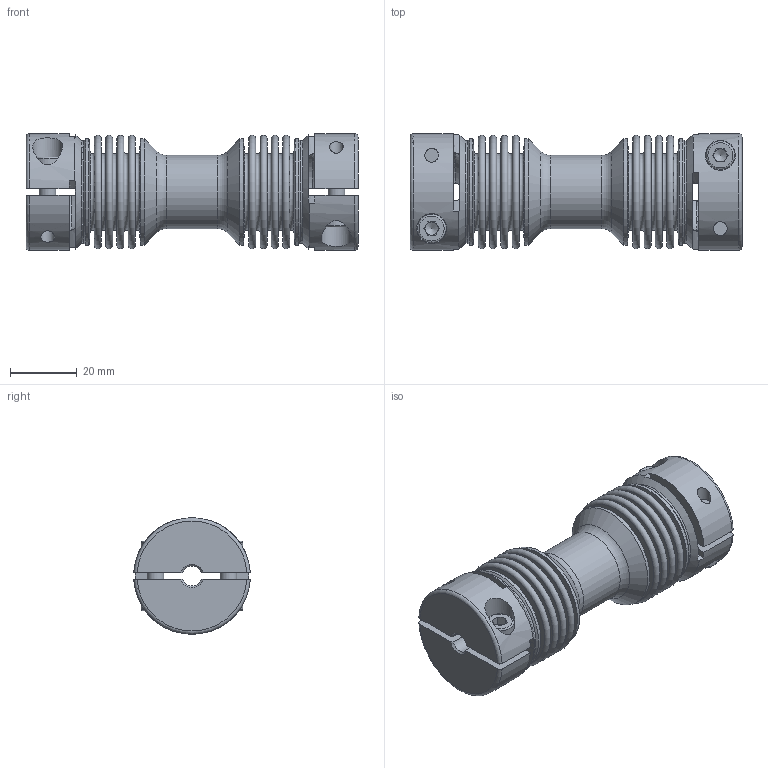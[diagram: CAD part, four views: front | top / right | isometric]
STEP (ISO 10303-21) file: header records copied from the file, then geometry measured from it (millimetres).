
FILE_DESCRIPTION(/* description */ ('Unknown','CAx-IF Rec.Pracs.---Representation and Presentation of Product Manufacturing Information (PMI)---4.0---2014-10-13','CAx-IF Rec.Pracs.---3D Tessellated Geometry---0.4---2014-09-14','2;1'),/* implementation_level */ '2;1');
FILE_NAME(/* name */ 'WDB 16',/* time_stamp */ '2023-01-16T11:43:05+01:00',/* author */ ('Unknown'),/* organization */ ('Unknown'),/* preprocessor_version */ 'ST-DEVELOPER v18.102',/* originating_system */ 'Solid Edge',/* authorisation */ 'Unknown');
FILE_SCHEMA (('AP242_MANAGED_MODEL_BASED_3D_ENGINEERING_MIM_LF { 1 0 10303 442 1 1 4 }'));
Length unit declared in the file: millimetre
Products named in the file (1): 16824342-step
Bounding box: 99.64 x 34.94 x 35 mm (x, y, z)
Volume: 39832 mm3; surface area: 45212.4 mm2
Topology: 1 solids, 1 shells, 280 faces, 636 edges, 410 vertices
Faces by surface type: plane 146, torus 56, cylinder 48, cone 30
Full cylindrical faces by diameter (mm): 4.134 x4, 5 x4, 5.4 x4, 8.5 x4, 9 x4, 18 x1, 21 x2, 22 x1, 31.2 x4, 32 x4
Entity records: 9481 total; most frequent: CARTESIAN_POINT 1698, DIRECTION 1244, ORIENTED_EDGE 1004, AXIS2_PLACEMENT_3D 536, EDGE_CURVE 502, FACE_BOUND 448, EDGE_LOOP 444, VERTEX_POINT 382
